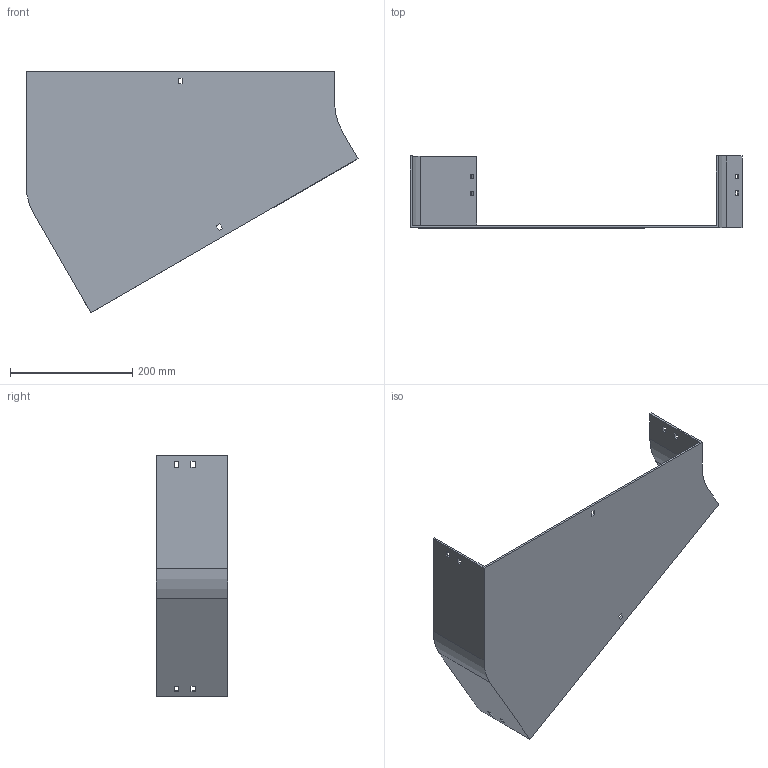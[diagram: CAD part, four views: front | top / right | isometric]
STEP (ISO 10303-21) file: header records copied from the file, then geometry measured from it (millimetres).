
FILE_DESCRIPTION (( 'STEP AP214' ), '1' );
FILE_NAME ('12B1J500.step', '2025-02-21T09:34:07', ( '' ), ( '' ), 'SwSTEP 2.0', 'SolidWorks 2023', '' );
FILE_SCHEMA (( 'AUTOMOTIVE_DESIGN' ));
Length unit declared in the file: millimetre
Products named in the file (1): 12B1J500
Bounding box: 542.4 x 117.5 x 395.3 mm (x, y, z)
Volume: 736135 mm3; surface area: 428953.4 mm2
Topology: 1 solids, 1 shells, 58 faces, 168 edges, 112 vertices
Faces by surface type: plane 54, cylinder 4
Entity records: 1943 total; most frequent: CARTESIAN_POINT 339, ORIENTED_EDGE 336, DIRECTION 294, EDGE_CURVE 168, LINE 160, VECTOR 160, VERTEX_POINT 112, EDGE_LOOP 78
